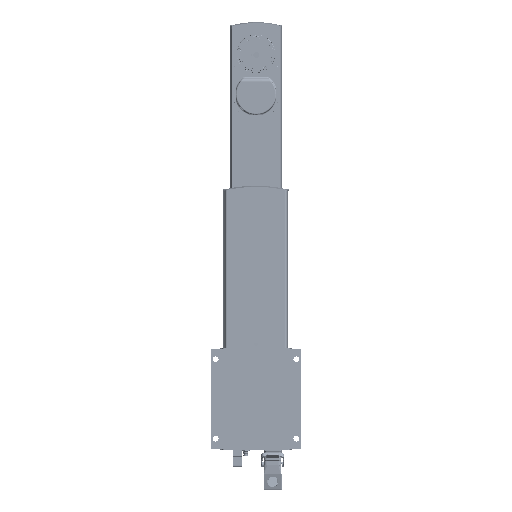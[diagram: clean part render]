
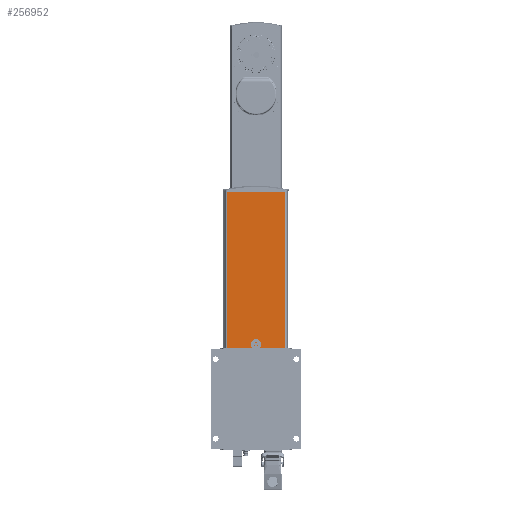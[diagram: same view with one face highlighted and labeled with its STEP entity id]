
A CAD part, front view. The second image highlights one B-rep face of the part: STEP entity #256952.
In plain terms, the highlighted planar face has unit normal (0, -1, 0).
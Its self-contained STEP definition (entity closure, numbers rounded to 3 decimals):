
#1362 = DIRECTION ( 'NONE',  ( -1., 0., 0. ) ) ;
#2751 = ORIENTED_EDGE ( 'NONE', *, *, #61455, .F. ) ;
#8595 = CARTESIAN_POINT ( 'NONE',  ( -75., 254.5, 631. ) ) ;
#10030 = CARTESIAN_POINT ( 'NONE',  ( -71.008, 254.5, 631. ) ) ;
#12462 = CARTESIAN_POINT ( 'NONE',  ( 0., 254.5, 261.25 ) ) ;
#15669 = VECTOR ( 'NONE', #139435, 1000. ) ;
#16687 = DIRECTION ( 'NONE',  ( 0., -1., 0. ) ) ;
#18739 = DIRECTION ( 'NONE',  ( 1., 0., 0. ) ) ;
#38993 = CARTESIAN_POINT ( 'NONE',  ( -75., 254.5, 631. ) ) ;
#43950 = CARTESIAN_POINT ( 'NONE',  ( 0., 254.5, 257. ) ) ;
#47839 = CARTESIAN_POINT ( 'NONE',  ( 0., 254.5, 170. ) ) ;
#49104 = PLANE ( 'NONE',  #155653 ) ;
#51758 = FACE_OUTER_BOUND ( 'NONE', #149981, .T. ) ;
#54970 = EDGE_LOOP ( 'NONE', ( #172509, #246218 ) ) ;
#55243 = FACE_BOUND ( 'NONE', #54970, .T. ) ;
#61455 = EDGE_CURVE ( 'NONE', #287037, #227863, #234063, .T. ) ;
#71718 = CARTESIAN_POINT ( 'NONE',  ( -71.008, 254.5, 631. ) ) ;
#74159 = DIRECTION ( 'NONE',  ( 0., -1., 0. ) ) ;
#77403 = CARTESIAN_POINT ( 'NONE',  ( -71.008, 254.5, 178.374 ) ) ;
#80318 = DIRECTION ( 'NONE',  ( -1., 0., 0. ) ) ;
#84491 = LINE ( 'NONE', #71718, #15669 ) ;
#88461 = CARTESIAN_POINT ( 'NONE',  ( 0., 254.5, 257. ) ) ;
#93470 = AXIS2_PLACEMENT_3D ( 'NONE', #47839, #140751, #1362 ) ;
#95517 = DIRECTION ( 'NONE',  ( 0., 0., -1. ) ) ;
#109279 = ORIENTED_EDGE ( 'NONE', *, *, #147274, .T. ) ;
#112475 = VERTEX_POINT ( 'NONE', #12462 ) ;
#133167 = CIRCLE ( 'NONE', #93470, 71.5 ) ;
#133754 = CARTESIAN_POINT ( 'NONE',  ( 71.008, 254.5, 178.374 ) ) ;
#136837 = ORIENTED_EDGE ( 'NONE', *, *, #208761, .T. ) ;
#139435 = DIRECTION ( 'NONE',  ( 0., 0., -1. ) ) ;
#140751 = DIRECTION ( 'NONE',  ( 0., 1., 0. ) ) ;
#142903 = ORIENTED_EDGE ( 'NONE', *, *, #292135, .T. ) ;
#147274 = EDGE_CURVE ( 'NONE', #287037, #235384, #84491, .T. ) ;
#149981 = EDGE_LOOP ( 'NONE', ( #109279, #136837, #142903, #2751 ) ) ;
#155653 = AXIS2_PLACEMENT_3D ( 'NONE', #8595, #194283, #80318 ) ;
#162655 = CARTESIAN_POINT ( 'NONE',  ( 0., 254.5, 252.75 ) ) ;
#172509 = ORIENTED_EDGE ( 'NONE', *, *, #244823, .F. ) ;
#180230 = DIRECTION ( 'NONE',  ( 0., 0., -1. ) ) ;
#184021 = LINE ( 'NONE', #196548, #299569 ) ;
#194283 = DIRECTION ( 'NONE',  ( 0., 1., 0. ) ) ;
#196548 = CARTESIAN_POINT ( 'NONE',  ( 71.008, 254.5, 631. ) ) ;
#208761 = EDGE_CURVE ( 'NONE', #235384, #286184, #133167, .T. ) ;
#214349 = EDGE_CURVE ( 'NONE', #112475, #251657, #262086, .T. ) ;
#227863 = VERTEX_POINT ( 'NONE', #256143 ) ;
#234063 = LINE ( 'NONE', #38993, #288159 ) ;
#235384 = VERTEX_POINT ( 'NONE', #77403 ) ;
#244823 = EDGE_CURVE ( 'NONE', #251657, #112475, #258074, .T. ) ;
#246218 = ORIENTED_EDGE ( 'NONE', *, *, #214349, .F. ) ;
#251657 = VERTEX_POINT ( 'NONE', #162655 ) ;
#253794 = AXIS2_PLACEMENT_3D ( 'NONE', #88461, #16687, #180230 ) ;
#256143 = CARTESIAN_POINT ( 'NONE',  ( 71.008, 254.5, 631. ) ) ;
#256952 = ADVANCED_FACE ( 'NONE', ( #55243, #51758 ), #49104, .F. ) ;
#258074 = CIRCLE ( 'NONE', #253794, 4.25 ) ;
#262086 = CIRCLE ( 'NONE', #292431, 4.25 ) ;
#272319 = DIRECTION ( 'NONE',  ( 0., 0., 1. ) ) ;
#286184 = VERTEX_POINT ( 'NONE', #133754 ) ;
#287037 = VERTEX_POINT ( 'NONE', #10030 ) ;
#288159 = VECTOR ( 'NONE', #18739, 1000. ) ;
#292135 = EDGE_CURVE ( 'NONE', #286184, #227863, #184021, .T. ) ;
#292431 = AXIS2_PLACEMENT_3D ( 'NONE', #43950, #74159, #95517 ) ;
#299569 = VECTOR ( 'NONE', #272319, 1000. ) ;
